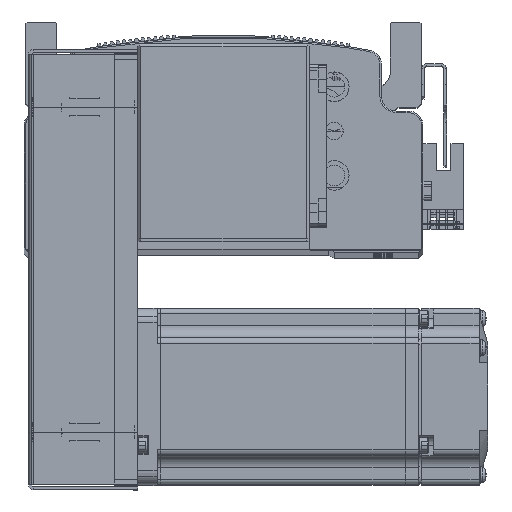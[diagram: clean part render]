
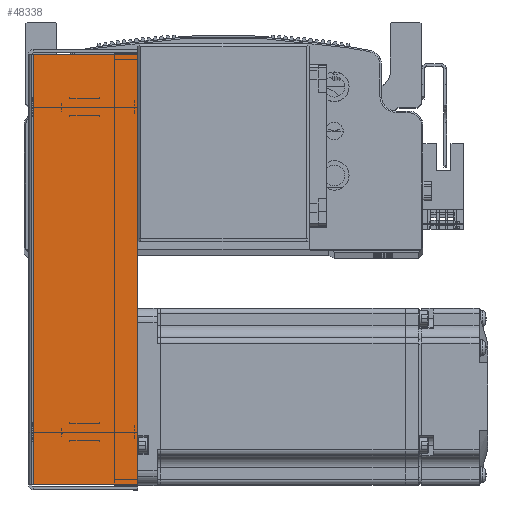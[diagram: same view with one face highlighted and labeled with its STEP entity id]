
A CAD part, top view. The second image highlights one B-rep face of the part: STEP entity #48338.
In plain terms, the highlighted planar face has unit normal (0, 0, 1) as drawn and (0, 0, -1) by its records, which use the part's own axes.
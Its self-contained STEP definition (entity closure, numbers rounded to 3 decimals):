
#7377 = CARTESIAN_POINT ( 'NONE',  ( 0., 0., -34.5 ) ) ;
#7402 = PLANE ( 'NONE',  #78204 ) ;
#7409 = DIRECTION ( 'NONE',  ( 0., 0., 1. ) ) ;
#7410 = DIRECTION ( 'NONE',  ( 0., -1., 0. ) ) ;
#16690 = FACE_OUTER_BOUND ( 'NONE', #51673, .T. ) ;
#20998 = VERTEX_POINT ( 'NONE', #28741 ) ;
#21174 = VERTEX_POINT ( 'NONE', #28739 ) ;
#21220 = VERTEX_POINT ( 'NONE', #28809 ) ;
#21252 = VERTEX_POINT ( 'NONE', #28782 ) ;
#25863 = VECTOR ( 'NONE', #52423, 1000. ) ;
#25886 = LINE ( 'NONE', #52462, #25863 ) ;
#25993 = VECTOR ( 'NONE', #53227, 1000. ) ;
#26021 = LINE ( 'NONE', #53344, #25993 ) ;
#26039 = VECTOR ( 'NONE', #53454, 1000. ) ;
#26045 = LINE ( 'NONE', #53397, #26070 ) ;
#26051 = LINE ( 'NONE', #53432, #26039 ) ;
#26070 = VECTOR ( 'NONE', #53492, 1000. ) ;
#28739 = CARTESIAN_POINT ( 'NONE',  ( -72.793, 0.737, -34.5 ) ) ;
#28741 = CARTESIAN_POINT ( 'NONE',  ( -72.793, 36., -34.5 ) ) ;
#28782 = CARTESIAN_POINT ( 'NONE',  ( 72.793, 0.737, -34.5 ) ) ;
#28809 = CARTESIAN_POINT ( 'NONE',  ( 72.793, 36., -34.5 ) ) ;
#43507 = EDGE_CURVE ( 'NONE', #21174, #21252, #25886, .T. ) ;
#43604 = EDGE_CURVE ( 'NONE', #20998, #21220, #26021, .T. ) ;
#43618 = EDGE_CURVE ( 'NONE', #21174, #20998, #26051, .T. ) ;
#43619 = EDGE_CURVE ( 'NONE', #21252, #21220, #26045, .T. ) ;
#47517 = ORIENTED_EDGE ( 'NONE', *, *, #43604, .T. ) ;
#47525 = ORIENTED_EDGE ( 'NONE', *, *, #43619, .F. ) ;
#47527 = ORIENTED_EDGE ( 'NONE', *, *, #43618, .T. ) ;
#47550 = ORIENTED_EDGE ( 'NONE', *, *, #43507, .F. ) ;
#48338 = ADVANCED_FACE ( 'NONE', ( #16690 ), #7402, .F. ) ;
#51673 = EDGE_LOOP ( 'NONE', ( #47550, #47527, #47517, #47525 ) ) ;
#52423 = DIRECTION ( 'NONE',  ( 1., 0., 0. ) ) ;
#52462 = CARTESIAN_POINT ( 'NONE',  ( 74.5, 0.737, -34.5 ) ) ;
#53227 = DIRECTION ( 'NONE',  ( 1., 0., 0. ) ) ;
#53344 = CARTESIAN_POINT ( 'NONE',  ( 0., 36., -34.5 ) ) ;
#53397 = CARTESIAN_POINT ( 'NONE',  ( 72.793, 0., -34.5 ) ) ;
#53432 = CARTESIAN_POINT ( 'NONE',  ( -72.793, 0., -34.5 ) ) ;
#53454 = DIRECTION ( 'NONE',  ( 0., 1., 0. ) ) ;
#53492 = DIRECTION ( 'NONE',  ( 0., 1., 0. ) ) ;
#78204 = AXIS2_PLACEMENT_3D ( 'NONE', #7377, #7409, #7410 ) ;
